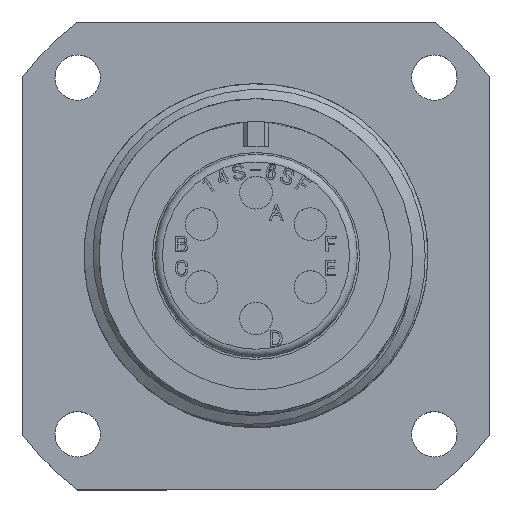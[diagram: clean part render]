
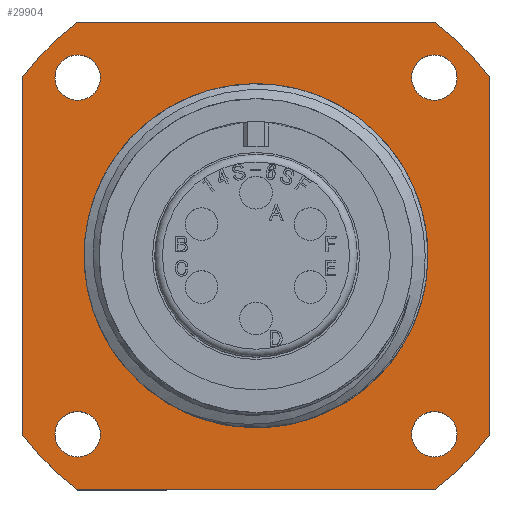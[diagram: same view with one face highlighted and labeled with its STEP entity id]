
A CAD part, top view. The second image highlights one B-rep face of the part: STEP entity #29904.
In plain terms, the highlighted planar face has unit normal (0, 0, 1).
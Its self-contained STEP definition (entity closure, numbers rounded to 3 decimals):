
#688 = LINE ( 'NONE', #26807, #28446 ) ;
#701 = DIRECTION ( 'NONE',  ( 0., 0., 1. ) ) ;
#1060 = AXIS2_PLACEMENT_3D ( 'NONE', #10742, #10543, #29151 ) ;
#1063 = EDGE_LOOP ( 'NONE', ( #9946 ) ) ;
#1199 = FACE_BOUND ( 'NONE', #1416, .T. ) ;
#1201 = AXIS2_PLACEMENT_3D ( 'NONE', #5487, #24662, #5958 ) ;
#1416 = EDGE_LOOP ( 'NONE', ( #3558 ) ) ;
#1556 = EDGE_CURVE ( 'NONE', #4743, #4875, #4228, .T. ) ;
#1685 = EDGE_LOOP ( 'NONE', ( #13948 ) ) ;
#1804 = DIRECTION ( 'NONE',  ( 0., -1., 0. ) ) ;
#2035 = VERTEX_POINT ( 'NONE', #13263 ) ;
#2440 = ORIENTED_EDGE ( 'NONE', *, *, #14557, .T. ) ;
#2493 = CIRCLE ( 'NONE', #9307, 11.095 ) ;
#2563 = DIRECTION ( 'NONE',  ( -1., 0., 0. ) ) ;
#2904 = ORIENTED_EDGE ( 'NONE', *, *, #8829, .T. ) ;
#3558 = ORIENTED_EDGE ( 'NONE', *, *, #5047, .F. ) ;
#3626 = ORIENTED_EDGE ( 'NONE', *, *, #6860, .T. ) ;
#4228 = LINE ( 'NONE', #13297, #28318 ) ;
#4743 = VERTEX_POINT ( 'NONE', #20988 ) ;
#4875 = VERTEX_POINT ( 'NONE', #19045 ) ;
#5047 = EDGE_CURVE ( 'NONE', #15433, #15433, #18303, .T. ) ;
#5107 = DIRECTION ( 'NONE',  ( 0., 0., 1. ) ) ;
#5290 = DIRECTION ( 'NONE',  ( 1., 0., 0. ) ) ;
#5487 = CARTESIAN_POINT ( 'NONE',  ( 0., 0., -14.48 ) ) ;
#5591 = FACE_BOUND ( 'NONE', #1063, .T. ) ;
#5715 = CARTESIAN_POINT ( 'NONE',  ( -15.1, -11.532, -14.48 ) ) ;
#5824 = VECTOR ( 'NONE', #1804, 1000. ) ;
#5958 = DIRECTION ( 'NONE',  ( 1., 0., 0. ) ) ;
#6653 = FACE_BOUND ( 'NONE', #25161, .T. ) ;
#6716 = DIRECTION ( 'NONE',  ( 0., 0., 1. ) ) ;
#6860 = EDGE_CURVE ( 'NONE', #10399, #18027, #27032, .T. ) ;
#7269 = ORIENTED_EDGE ( 'NONE', *, *, #16716, .T. ) ;
#7673 = ORIENTED_EDGE ( 'NONE', *, *, #28995, .F. ) ;
#7697 = VERTEX_POINT ( 'NONE', #16998 ) ;
#7818 = EDGE_CURVE ( 'NONE', #21700, #7697, #688, .T. ) ;
#7922 = DIRECTION ( 'NONE',  ( 1., 0., 0. ) ) ;
#7966 = DIRECTION ( 'NONE',  ( 0., 0., -1. ) ) ;
#8080 = EDGE_LOOP ( 'NONE', ( #3626, #2904, #7269, #29367, #2440, #28837, #27652, #13465 ) ) ;
#8265 = EDGE_CURVE ( 'NONE', #13190, #13190, #2493, .T. ) ;
#8733 = DIRECTION ( 'NONE',  ( 1., 0., 0. ) ) ;
#8829 = EDGE_CURVE ( 'NONE', #18027, #15240, #11654, .T. ) ;
#8959 = CARTESIAN_POINT ( 'NONE',  ( 0., 0., -14.48 ) ) ;
#9307 = AXIS2_PLACEMENT_3D ( 'NONE', #10105, #7966, #24227 ) ;
#9375 = DIRECTION ( 'NONE',  ( 0., 0., 1. ) ) ;
#9427 = CIRCLE ( 'NONE', #16833, 19. ) ;
#9946 = ORIENTED_EDGE ( 'NONE', *, *, #20787, .F. ) ;
#10105 = CARTESIAN_POINT ( 'NONE',  ( 0., 0., -14.48 ) ) ;
#10174 = DIRECTION ( 'NONE',  ( -1., 0., 0. ) ) ;
#10350 = CARTESIAN_POINT ( 'NONE',  ( -11.532, 15.1, -14.48 ) ) ;
#10399 = VERTEX_POINT ( 'NONE', #10350 ) ;
#10543 = DIRECTION ( 'NONE',  ( 0., 0., 1. ) ) ;
#10742 = CARTESIAN_POINT ( 'NONE',  ( -11.51, 11.51, -14.48 ) ) ;
#11001 = VERTEX_POINT ( 'NONE', #16655 ) ;
#11114 = LINE ( 'NONE', #24197, #25048 ) ;
#11397 = CIRCLE ( 'NONE', #21893, 1.465 ) ;
#11654 = LINE ( 'NONE', #29666, #5824 ) ;
#11931 = CARTESIAN_POINT ( 'NONE',  ( 11.095, 0., -14.48 ) ) ;
#12205 = EDGE_CURVE ( 'NONE', #20899, #20899, #23455, .T. ) ;
#12495 = FACE_BOUND ( 'NONE', #1685, .T. ) ;
#13190 = VERTEX_POINT ( 'NONE', #11931 ) ;
#13263 = CARTESIAN_POINT ( 'NONE',  ( 11.532, 15.1, -14.48 ) ) ;
#13297 = CARTESIAN_POINT ( 'NONE',  ( -11.532, -15.1, -14.48 ) ) ;
#13399 = CARTESIAN_POINT ( 'NONE',  ( 0., 0., -14.48 ) ) ;
#13465 = ORIENTED_EDGE ( 'NONE', *, *, #19686, .T. ) ;
#13948 = ORIENTED_EDGE ( 'NONE', *, *, #8265, .T. ) ;
#14557 = EDGE_CURVE ( 'NONE', #4875, #21700, #21150, .T. ) ;
#15054 = FACE_OUTER_BOUND ( 'NONE', #8080, .T. ) ;
#15240 = VERTEX_POINT ( 'NONE', #5715 ) ;
#15433 = VERTEX_POINT ( 'NONE', #18907 ) ;
#16655 = CARTESIAN_POINT ( 'NONE',  ( -12.975, -11.51, -14.48 ) ) ;
#16716 = EDGE_CURVE ( 'NONE', #15240, #4743, #9427, .T. ) ;
#16833 = AXIS2_PLACEMENT_3D ( 'NONE', #8959, #6716, #25305 ) ;
#16998 = CARTESIAN_POINT ( 'NONE',  ( 15.1, 11.532, -14.48 ) ) ;
#17263 = DIRECTION ( 'NONE',  ( 1., 0., 0. ) ) ;
#17531 = CARTESIAN_POINT ( 'NONE',  ( 11.51, -11.51, -14.48 ) ) ;
#17789 = AXIS2_PLACEMENT_3D ( 'NONE', #17531, #28870, #7922 ) ;
#17852 = PLANE ( 'NONE',  #23052 ) ;
#18027 = VERTEX_POINT ( 'NONE', #28633 ) ;
#18303 = CIRCLE ( 'NONE', #1060, 1.465 ) ;
#18661 = AXIS2_PLACEMENT_3D ( 'NONE', #24126, #19703, #17263 ) ;
#18681 = CARTESIAN_POINT ( 'NONE',  ( 11.51, 11.51, -14.48 ) ) ;
#18907 = CARTESIAN_POINT ( 'NONE',  ( -10.045, 11.51, -14.48 ) ) ;
#18985 = CARTESIAN_POINT ( 'NONE',  ( 15.1, -11.532, -14.48 ) ) ;
#19045 = CARTESIAN_POINT ( 'NONE',  ( 11.532, -15.1, -14.48 ) ) ;
#19686 = EDGE_CURVE ( 'NONE', #2035, #10399, #11114, .T. ) ;
#19703 = DIRECTION ( 'NONE',  ( 0., 0., 1. ) ) ;
#20787 = EDGE_CURVE ( 'NONE', #11001, #11001, #27066, .T. ) ;
#20899 = VERTEX_POINT ( 'NONE', #25663 ) ;
#20988 = CARTESIAN_POINT ( 'NONE',  ( -11.532, -15.1, -14.48 ) ) ;
#21121 = DIRECTION ( 'NONE',  ( -1., 0., 0. ) ) ;
#21150 = CIRCLE ( 'NONE', #1201, 19. ) ;
#21700 = VERTEX_POINT ( 'NONE', #18985 ) ;
#21755 = CARTESIAN_POINT ( 'NONE',  ( 10.045, 11.51, -14.48 ) ) ;
#21893 = AXIS2_PLACEMENT_3D ( 'NONE', #18681, #9375, #2563 ) ;
#23052 = AXIS2_PLACEMENT_3D ( 'NONE', #13399, #29863, #29768 ) ;
#23455 = CIRCLE ( 'NONE', #17789, 1.465 ) ;
#23736 = AXIS2_PLACEMENT_3D ( 'NONE', #26038, #5107, #21121 ) ;
#24126 = CARTESIAN_POINT ( 'NONE',  ( 0., 0., -14.48 ) ) ;
#24197 = CARTESIAN_POINT ( 'NONE',  ( -11.532, 15.1, -14.48 ) ) ;
#24203 = VERTEX_POINT ( 'NONE', #21755 ) ;
#24227 = DIRECTION ( 'NONE',  ( 1., 0., 0. ) ) ;
#24274 = EDGE_CURVE ( 'NONE', #7697, #2035, #25146, .T. ) ;
#24662 = DIRECTION ( 'NONE',  ( 0., 0., 1. ) ) ;
#25048 = VECTOR ( 'NONE', #10174, 1000. ) ;
#25146 = CIRCLE ( 'NONE', #25746, 19. ) ;
#25161 = EDGE_LOOP ( 'NONE', ( #28756 ) ) ;
#25305 = DIRECTION ( 'NONE',  ( 1., 0., 0. ) ) ;
#25663 = CARTESIAN_POINT ( 'NONE',  ( 12.975, -11.51, -14.48 ) ) ;
#25746 = AXIS2_PLACEMENT_3D ( 'NONE', #25917, #701, #5290 ) ;
#25917 = CARTESIAN_POINT ( 'NONE',  ( 0., 0., -14.48 ) ) ;
#26038 = CARTESIAN_POINT ( 'NONE',  ( -11.51, -11.51, -14.48 ) ) ;
#26570 = EDGE_LOOP ( 'NONE', ( #7673 ) ) ;
#26807 = CARTESIAN_POINT ( 'NONE',  ( 15.1, 11.532, -14.48 ) ) ;
#26905 = DIRECTION ( 'NONE',  ( 0., 1., 0. ) ) ;
#27032 = CIRCLE ( 'NONE', #18661, 19. ) ;
#27066 = CIRCLE ( 'NONE', #23736, 1.465 ) ;
#27652 = ORIENTED_EDGE ( 'NONE', *, *, #24274, .T. ) ;
#28318 = VECTOR ( 'NONE', #8733, 1000. ) ;
#28446 = VECTOR ( 'NONE', #26905, 1000. ) ;
#28633 = CARTESIAN_POINT ( 'NONE',  ( -15.1, 11.532, -14.48 ) ) ;
#28756 = ORIENTED_EDGE ( 'NONE', *, *, #12205, .F. ) ;
#28837 = ORIENTED_EDGE ( 'NONE', *, *, #7818, .T. ) ;
#28870 = DIRECTION ( 'NONE',  ( 0., 0., 1. ) ) ;
#28995 = EDGE_CURVE ( 'NONE', #24203, #24203, #11397, .T. ) ;
#29151 = DIRECTION ( 'NONE',  ( 1., 0., 0. ) ) ;
#29367 = ORIENTED_EDGE ( 'NONE', *, *, #1556, .T. ) ;
#29666 = CARTESIAN_POINT ( 'NONE',  ( -15.1, 11.532, -14.48 ) ) ;
#29684 = FACE_BOUND ( 'NONE', #26570, .T. ) ;
#29768 = DIRECTION ( 'NONE',  ( 1., 0., 0. ) ) ;
#29863 = DIRECTION ( 'NONE',  ( 0., 0., 1. ) ) ;
#29904 = ADVANCED_FACE ( 'NONE', ( #12495, #5591, #6653, #29684, #1199, #15054 ), #17852, .T. ) ;
